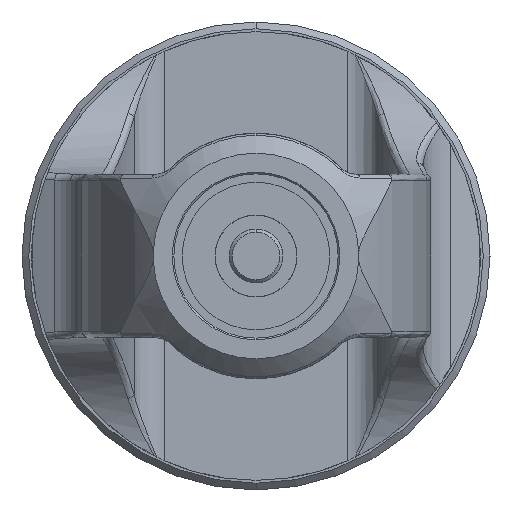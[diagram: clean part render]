
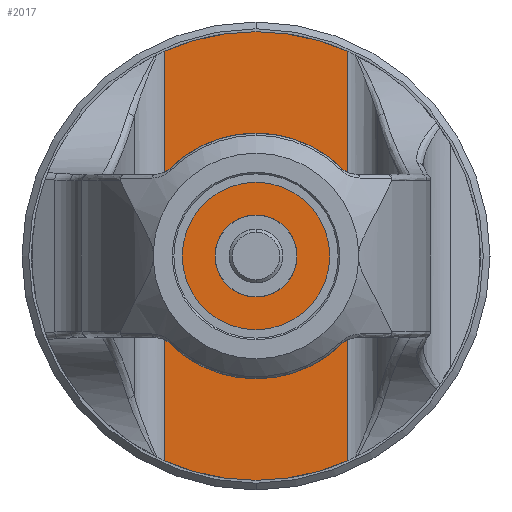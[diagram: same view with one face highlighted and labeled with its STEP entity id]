
A CAD part, front view. The second image highlights one B-rep face of the part: STEP entity #2017.
In plain terms, the highlighted planar face has unit normal (0, -1, 0).
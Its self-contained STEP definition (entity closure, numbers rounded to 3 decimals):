
#106 = EDGE_CURVE ( 'NONE', #12540, #12271, #7447, .T. ) ;
#118 = EDGE_CURVE ( 'NONE', #12355, #12296, #7445, .T. ) ;
#127 = EDGE_CURVE ( 'NONE', #12284, #12533, #7438, .T. ) ;
#128 = EDGE_CURVE ( 'NONE', #12296, #12333, #7436, .T. ) ;
#129 = EDGE_CURVE ( 'NONE', #12407, #12355, #7435, .T. ) ;
#137 = EDGE_CURVE ( 'NONE', #12533, #12407, #7424, .T. ) ;
#152 = EDGE_CURVE ( 'NONE', #12271, #12540, #7403, .T. ) ;
#2017 = ADVANCED_FACE ( 'NONE', ( #7070, #7069 ), #8069, .F. ) ;
#2835 = CARTESIAN_POINT ( 'NONE',  ( 0., 85.827, -9.525 ) ) ;
#2848 = CARTESIAN_POINT ( 'NONE',  ( 21.344, 85.827, 47.634 ) ) ;
#2860 = CARTESIAN_POINT ( 'NONE',  ( -21.344, 85.827, 47.634 ) ) ;
#2897 = CARTESIAN_POINT ( 'NONE',  ( 0., 85.827, 52.197 ) ) ;
#2919 = CARTESIAN_POINT ( 'NONE',  ( -21.344, 85.827, -47.634 ) ) ;
#2971 = CARTESIAN_POINT ( 'NONE',  ( 0., 85.827, -52.197 ) ) ;
#3097 = CARTESIAN_POINT ( 'NONE',  ( 21.344, 85.827, -47.634 ) ) ;
#3104 = CARTESIAN_POINT ( 'NONE',  ( 0., 85.827, 9.525 ) ) ;
#7069 = FACE_OUTER_BOUND ( 'NONE', #9540, .T. ) ;
#7070 = FACE_BOUND ( 'NONE', #9527, .T. ) ;
#7403 = CIRCLE ( 'NONE', #13050, 9.525 ) ;
#7424 = CIRCLE ( 'NONE', #13044, 52.197 ) ;
#7435 = CIRCLE ( 'NONE', #13052, 52.197 ) ;
#7436 = CIRCLE ( 'NONE', #13032, 52.197 ) ;
#7437 = VECTOR ( 'NONE', #16040, 1000. ) ;
#7438 = LINE ( 'NONE', #16041, #7437 ) ;
#7444 = VECTOR ( 'NONE', #16115, 1000. ) ;
#7445 = LINE ( 'NONE', #16116, #7444 ) ;
#7447 = CIRCLE ( 'NONE', #12995, 9.525 ) ;
#8069 = PLANE ( 'NONE',  #12144 ) ;
#8070 = CARTESIAN_POINT ( 'NONE',  ( -26.215, 85.827, -53.975 ) ) ;
#8071 = DIRECTION ( 'NONE',  ( 0., 1., 0. ) ) ;
#8072 = DIRECTION ( 'NONE',  ( 0., 0., 1. ) ) ;
#9527 = EDGE_LOOP ( 'NONE', ( #17291, #17290 ) ) ;
#9540 = EDGE_LOOP ( 'NONE', ( #17289, #17288, #17287, #17286, #17283, #17281 ) ) ;
#12144 = AXIS2_PLACEMENT_3D ( 'NONE', #8070, #8071, #8072 ) ;
#12271 = VERTEX_POINT ( 'NONE', #2835 ) ;
#12284 = VERTEX_POINT ( 'NONE', #2848 ) ;
#12296 = VERTEX_POINT ( 'NONE', #2860 ) ;
#12333 = VERTEX_POINT ( 'NONE', #2897 ) ;
#12355 = VERTEX_POINT ( 'NONE', #2919 ) ;
#12407 = VERTEX_POINT ( 'NONE', #2971 ) ;
#12533 = VERTEX_POINT ( 'NONE', #3097 ) ;
#12540 = VERTEX_POINT ( 'NONE', #3104 ) ;
#12921 = AXIS2_PLACEMENT_3D ( 'NONE', #19690, #19691, #19692 ) ;
#12995 = AXIS2_PLACEMENT_3D ( 'NONE', #16270, #16269, #16267 ) ;
#13014 = EDGE_CURVE ( 'NONE', #12333, #12284, #14407, .T. ) ;
#13032 = AXIS2_PLACEMENT_3D ( 'NONE', #16039, #16038, #16037 ) ;
#13044 = AXIS2_PLACEMENT_3D ( 'NONE', #16013, #16012, #16010 ) ;
#13050 = AXIS2_PLACEMENT_3D ( 'NONE', #15948, #15947, #15958 ) ;
#13052 = AXIS2_PLACEMENT_3D ( 'NONE', #16036, #16035, #16034 ) ;
#14407 = CIRCLE ( 'NONE', #12921, 52.197 ) ;
#15947 = DIRECTION ( 'NONE',  ( 0., -1., 0. ) ) ;
#15948 = CARTESIAN_POINT ( 'NONE',  ( 0., 85.827, 0. ) ) ;
#15958 = DIRECTION ( 'NONE',  ( 0., 0., -1. ) ) ;
#16010 = DIRECTION ( 'NONE',  ( 0., 0., -1. ) ) ;
#16012 = DIRECTION ( 'NONE',  ( 0., 1., 0. ) ) ;
#16013 = CARTESIAN_POINT ( 'NONE',  ( 0., 85.827, 0. ) ) ;
#16034 = DIRECTION ( 'NONE',  ( 0., 0., -1. ) ) ;
#16035 = DIRECTION ( 'NONE',  ( 0., 1., 0. ) ) ;
#16036 = CARTESIAN_POINT ( 'NONE',  ( 0., 85.827, 0. ) ) ;
#16037 = DIRECTION ( 'NONE',  ( 0., 0., -1. ) ) ;
#16038 = DIRECTION ( 'NONE',  ( 0., 1., 0. ) ) ;
#16039 = CARTESIAN_POINT ( 'NONE',  ( 0., 85.827, 0. ) ) ;
#16040 = DIRECTION ( 'NONE',  ( 0., 0., -1. ) ) ;
#16041 = CARTESIAN_POINT ( 'NONE',  ( 21.344, 85.827, -53.975 ) ) ;
#16115 = DIRECTION ( 'NONE',  ( 0., 0., 1. ) ) ;
#16116 = CARTESIAN_POINT ( 'NONE',  ( -21.344, 85.827, -53.975 ) ) ;
#16267 = DIRECTION ( 'NONE',  ( 0., 0., -1. ) ) ;
#16269 = DIRECTION ( 'NONE',  ( 0., -1., 0. ) ) ;
#16270 = CARTESIAN_POINT ( 'NONE',  ( 0., 85.827, 0. ) ) ;
#17281 = ORIENTED_EDGE ( 'NONE', *, *, #137, .F. ) ;
#17283 = ORIENTED_EDGE ( 'NONE', *, *, #129, .F. ) ;
#17286 = ORIENTED_EDGE ( 'NONE', *, *, #118, .F. ) ;
#17287 = ORIENTED_EDGE ( 'NONE', *, *, #128, .F. ) ;
#17288 = ORIENTED_EDGE ( 'NONE', *, *, #13014, .F. ) ;
#17289 = ORIENTED_EDGE ( 'NONE', *, *, #127, .F. ) ;
#17290 = ORIENTED_EDGE ( 'NONE', *, *, #106, .F. ) ;
#17291 = ORIENTED_EDGE ( 'NONE', *, *, #152, .F. ) ;
#19690 = CARTESIAN_POINT ( 'NONE',  ( 0., 85.827, 0. ) ) ;
#19691 = DIRECTION ( 'NONE',  ( 0., 1., 0. ) ) ;
#19692 = DIRECTION ( 'NONE',  ( 0., 0., -1. ) ) ;
